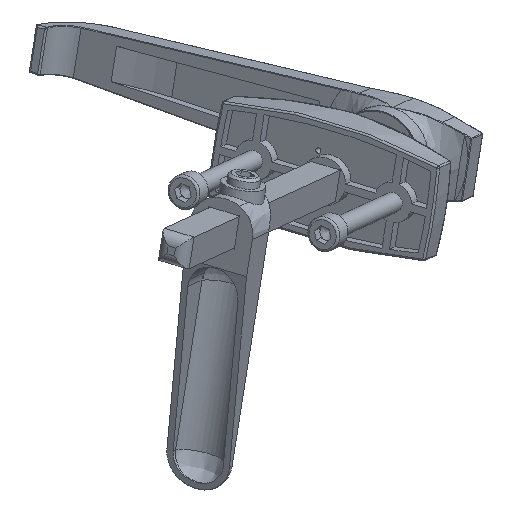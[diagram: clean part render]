
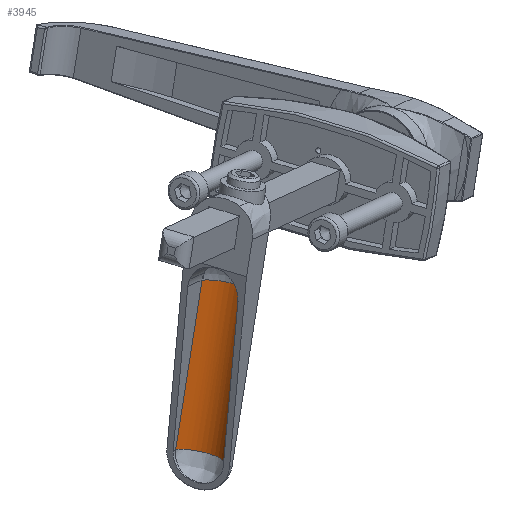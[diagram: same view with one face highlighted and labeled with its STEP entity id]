
A CAD part, front view. The second image highlights one B-rep face of the part: STEP entity #3945.
In plain terms, the highlighted cylindrical face has radius 7.82 mm (diameter 15.64 mm), a partial arc.
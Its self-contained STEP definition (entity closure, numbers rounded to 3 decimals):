
#402=FACE_OUTER_BOUND('',#651,.T.);
#651=EDGE_LOOP('',(#3402,#3403,#3404,#3405,#3406));
#878=CIRCLE('',#4360,7.82);
#879=CIRCLE('',#4362,7.82);
#880=CIRCLE('',#4363,7.82);
#1124=LINE('',#8948,#1421);
#1128=LINE('',#8957,#1425);
#1421=VECTOR('',#5310,1000.);
#1425=VECTOR('',#5316,1000.);
#1877=VERTEX_POINT('',#8936);
#1881=VERTEX_POINT('',#8945);
#1883=VERTEX_POINT('',#8951);
#1885=VERTEX_POINT('',#8955);
#1886=VERTEX_POINT('',#9287);
#2425=EDGE_CURVE('',#1881,#1877,#1124,.T.);
#2429=EDGE_CURVE('',#1883,#1885,#1128,.T.);
#2432=EDGE_CURVE('',#1881,#1885,#878,.T.);
#2433=EDGE_CURVE('',#1877,#1886,#879,.T.);
#2434=EDGE_CURVE('',#1886,#1883,#880,.T.);
#3402=ORIENTED_EDGE('',*,*,#2432,.F.);
#3403=ORIENTED_EDGE('',*,*,#2425,.T.);
#3404=ORIENTED_EDGE('',*,*,#2433,.T.);
#3405=ORIENTED_EDGE('',*,*,#2434,.T.);
#3406=ORIENTED_EDGE('',*,*,#2429,.T.);
#3755=CYLINDRICAL_SURFACE('',#4361,7.82);
#3945=ADVANCED_FACE('',(#402),#3755,.F.);
#4360=AXIS2_PLACEMENT_3D('',#9285,#5317,#5318);
#4361=AXIS2_PLACEMENT_3D('',#9286,#5319,#5320);
#4362=AXIS2_PLACEMENT_3D('',#9288,#5321,#5322);
#4363=AXIS2_PLACEMENT_3D('',#9289,#5323,#5324);
#5310=DIRECTION('',(0.146,-0.302,0.942));
#5316=DIRECTION('',(-0.146,0.302,-0.942));
#5317=DIRECTION('center_axis',(0.146,-0.302,0.942));
#5318=DIRECTION('ref_axis',(-0.879,0.397,0.264));
#5319=DIRECTION('center_axis',(0.146,-0.302,0.942));
#5320=DIRECTION('ref_axis',(-0.879,0.397,0.264));
#5321=DIRECTION('center_axis',(0.146,-0.302,0.942));
#5322=DIRECTION('ref_axis',(-0.879,0.397,0.264));
#5323=DIRECTION('center_axis',(0.146,-0.302,0.942));
#5324=DIRECTION('ref_axis',(-0.879,0.397,0.264));
#8936=CARTESIAN_POINT('',(347.612,23.857,-104.949));
#8945=CARTESIAN_POINT('',(341.313,36.861,-145.448));
#8948=CARTESIAN_POINT('',(347.612,23.857,-104.949));
#8951=CARTESIAN_POINT('',(335.615,29.272,-101.344));
#8955=CARTESIAN_POINT('',(329.316,42.277,-141.844));
#8957=CARTESIAN_POINT('',(335.615,29.272,-101.344));
#9285=CARTESIAN_POINT('Origin',(333.582,36.259,-144.439));
#9286=CARTESIAN_POINT('Origin',(339.88,23.254,-103.94));
#9287=CARTESIAN_POINT('',(335.855,29.43,-101.331));
#9288=CARTESIAN_POINT('Origin',(339.88,23.254,-103.94));
#9289=CARTESIAN_POINT('Origin',(339.88,23.254,-103.94));
